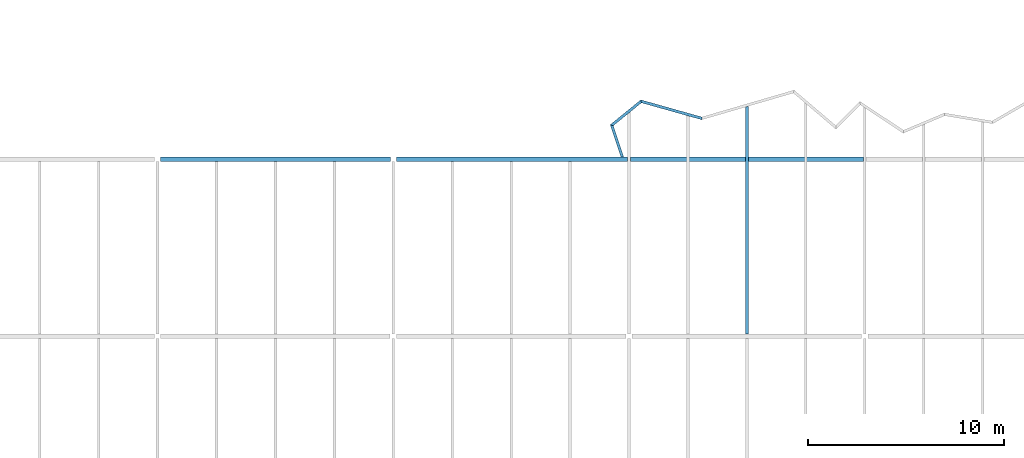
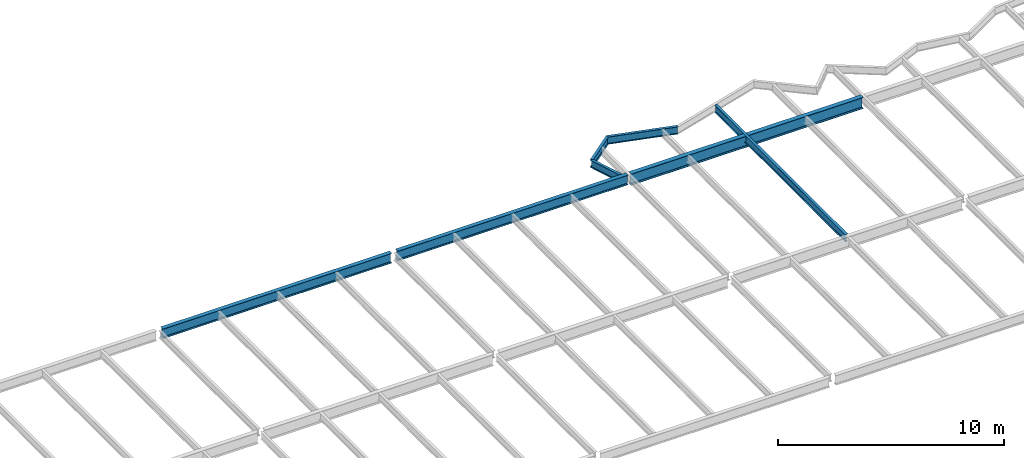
# One storey, part 19 of 23: 7 beams.
"""IFC2X3 building model written with IfcOpenShell, lengths in millimetres."""

from ifc_helpers import new_model, si_unit, origin, place, context, project, spatial, faceted_brep, material, element, save


model = new_model("IFC2X3")

# Units and contexts
context_of_model = context(None, 3, precision=1e-05, world=origin())
ifc_project = project(units=[si_unit("LENGTHUNIT", "METRE", prefix="MILLI")], contexts=[context_of_model])

# Building, storey
building = spatial("IfcBuilding", under=ifc_project, Name="Building", CompositionType="ELEMENT")
storey = spatial("IfcBuildingStorey", under=building, Name="FL5-FRM", CompositionType="ELEMENT")

# Beams
ifc_material_1 = material(Name="A992")
beam_1_placement = place(None, origin())
element("IfcBeam", 1, at=beam_1_placement, inside=storey, material=ifc_material_1, Name="Column589", context=context_of_model, shape_type="Brep", body=[
    faceted_brep([(36153.0, 26895.5, 17345.0), (36153.0, 27104.5, 17345.0), (47847.0, 27104.5, 17345.0), (47847.0, 26895.5, 17345.0), (36153.0, 27104.5, 17358.3), (47847.0, 27104.5, 17358.3), (36153.0, 27017.4, 17358.3), (47847.0, 27017.4, 17358.3), (36153.0, 27014.2, 17358.7), (47847.0, 27014.2, 17358.7), (36153.0, 27011.1, 17360.0), (47847.0, 27011.1, 17360.0), (36153.0, 27008.5, 17362.0), (47847.0, 27008.5, 17362.0), (36153.0, 27006.5, 17364.7), (47847.0, 27006.5, 17364.7), (36153.0, 27005.2, 17367.7), (47847.0, 27005.2, 17367.7), (36153.0, 27004.8, 17371.0), (47847.0, 27004.8, 17371.0), (36153.0, 27004.8, 17847.0), (47847.0, 27004.8, 17847.0), (36153.0, 27005.2, 17850.3), (47847.0, 27005.2, 17850.3), (36153.0, 27006.5, 17853.3), (47847.0, 27006.5, 17853.3), (36153.0, 27008.5, 17856.0), (47847.0, 27008.5, 17856.0), (36153.0, 27011.1, 17858.0), (47847.0, 27011.1, 17858.0), (36153.0, 27014.2, 17859.3), (47847.0, 27014.2, 17859.3), (36153.0, 27017.4, 17859.7), (47847.0, 27017.4, 17859.7), (36153.0, 27104.5, 17859.7), (47847.0, 27104.5, 17859.7), (36153.0, 27104.5, 17873.0), (47847.0, 27104.5, 17873.0), (36153.0, 26895.5, 17873.0), (47847.0, 26895.5, 17873.0), (36153.0, 26895.5, 17859.7), (47847.0, 26895.5, 17859.7), (36153.0, 26982.6, 17859.7), (47847.0, 26982.6, 17859.7), (36153.0, 26985.8, 17859.3), (47847.0, 26985.8, 17859.3), (36153.0, 26988.9, 17858.0), (47847.0, 26988.9, 17858.0), (36153.0, 26991.5, 17856.0), (47847.0, 26991.5, 17856.0), (36153.0, 26993.5, 17853.3), (47847.0, 26993.5, 17853.3), (36153.0, 26994.8, 17850.3), (47847.0, 26994.8, 17850.3), (36153.0, 26995.3, 17847.0), (47847.0, 26995.3, 17847.0), (36153.0, 26995.3, 17371.0), (47847.0, 26995.3, 17371.0), (36153.0, 26994.8, 17367.7), (47847.0, 26994.8, 17367.7), (36153.0, 26993.5, 17364.7), (47847.0, 26993.5, 17364.7), (36153.0, 26991.5, 17362.0), (47847.0, 26991.5, 17362.0), (36153.0, 26988.9, 17360.0), (47847.0, 26988.9, 17360.0), (36153.0, 26985.8, 17358.7), (47847.0, 26985.8, 17358.7), (36153.0, 26982.6, 17358.3), (47847.0, 26982.6, 17358.3), (36153.0, 26895.5, 17358.3), (47847.0, 26895.5, 17358.3)], [[[0, 1, 2, 3]], [[1, 4, 5, 2]], [[4, 6, 7, 5]], [[6, 8, 9, 7]], [[8, 10, 11, 9]], [[10, 12, 13, 11]], [[12, 14, 15, 13]], [[14, 16, 17, 15]], [[16, 18, 19, 17]], [[18, 20, 21, 19]], [[20, 22, 23, 21]], [[22, 24, 25, 23]], [[24, 26, 27, 25]], [[26, 28, 29, 27]], [[28, 30, 31, 29]], [[30, 32, 33, 31]], [[32, 34, 35, 33]], [[34, 36, 37, 35]], [[36, 38, 39, 37]], [[38, 40, 41, 39]], [[40, 42, 43, 41]], [[42, 44, 45, 43]], [[44, 46, 47, 45]], [[46, 48, 49, 47]], [[48, 50, 51, 49]], [[50, 52, 53, 51]], [[52, 54, 55, 53]], [[54, 56, 57, 55]], [[56, 58, 59, 57]], [[58, 60, 61, 59]], [[60, 62, 63, 61]], [[62, 64, 65, 63]], [[64, 66, 67, 65]], [[66, 68, 69, 67]], [[68, 70, 71, 69]], [[70, 0, 3, 71]], [[0, 70, 68, 66, 64, 62, 60, 58, 56, 54, 52, 50, 48, 46, 44, 42, 40, 38, 36, 34, 32, 30, 28, 26, 24, 22, 20, 18, 16, 14, 12, 10, 8, 6, 4, 1]], [[3, 2, 5, 7, 9, 11, 13, 15, 17, 19, 21, 23, 25, 27, 29, 31, 33, 35, 37, 39, 41, 43, 45, 47, 49, 51, 53, 55, 57, 59, 61, 63, 65, 67, 69, 71]]]),
])
ifc_material_2 = material(Name="A992")
beam_2_placement = place(None, origin())
element("IfcBeam", 2, at=beam_2_placement, inside=storey, material=ifc_material_2, Name="Column592", context=context_of_model, shape_type="Brep", body=[
    faceted_brep([(48153.0, 26895.5, 17345.0), (48153.0, 27104.5, 17345.0), (59930.0, 27104.5, 17345.0), (59930.0, 26895.5, 17345.0), (48153.0, 27104.5, 17358.3), (59930.0, 27104.5, 17358.3), (48153.0, 27017.4, 17358.3), (59930.0, 27017.4, 17358.3), (48153.0, 27014.2, 17358.7), (59930.0, 27014.2, 17358.7), (48153.0, 27011.1, 17360.0), (59930.0, 27011.1, 17360.0), (48153.0, 27008.5, 17362.0), (59930.0, 27008.5, 17362.0), (48153.0, 27006.5, 17364.7), (59930.0, 27006.5, 17364.7), (48153.0, 27005.2, 17367.7), (59930.0, 27005.2, 17367.7), (48153.0, 27004.8, 17371.0), (59930.0, 27004.8, 17371.0), (48153.0, 27004.8, 17847.0), (59930.0, 27004.8, 17847.0), (48153.0, 27005.2, 17850.3), (59930.0, 27005.2, 17850.3), (48153.0, 27006.5, 17853.3), (59930.0, 27006.5, 17853.3), (48153.0, 27008.5, 17856.0), (59930.0, 27008.5, 17856.0), (48153.0, 27011.1, 17858.0), (59930.0, 27011.1, 17858.0), (48153.0, 27014.2, 17859.3), (59930.0, 27014.2, 17859.3), (48153.0, 27017.4, 17859.7), (59930.0, 27017.4, 17859.7), (48153.0, 27104.5, 17859.7), (59930.0, 27104.5, 17859.7), (48153.0, 27104.5, 17873.0), (59930.0, 27104.5, 17873.0), (48153.0, 26895.5, 17873.0), (59930.0, 26895.5, 17873.0), (48153.0, 26895.5, 17859.7), (59930.0, 26895.5, 17859.7), (48153.0, 26982.6, 17859.7), (59930.0, 26982.6, 17859.7), (48153.0, 26985.8, 17859.3), (59930.0, 26985.8, 17859.3), (48153.0, 26988.9, 17858.0), (59930.0, 26988.9, 17858.0), (48153.0, 26991.5, 17856.0), (59930.0, 26991.5, 17856.0), (48153.0, 26993.5, 17853.3), (59930.0, 26993.5, 17853.3), (48153.0, 26994.8, 17850.3), (59930.0, 26994.8, 17850.3), (48153.0, 26995.3, 17847.0), (59930.0, 26995.3, 17847.0), (48153.0, 26995.3, 17371.0), (59930.0, 26995.3, 17371.0), (48153.0, 26994.8, 17367.7), (59930.0, 26994.8, 17367.7), (48153.0, 26993.5, 17364.7), (59930.0, 26993.5, 17364.7), (48153.0, 26991.5, 17362.0), (59930.0, 26991.5, 17362.0), (48153.0, 26988.9, 17360.0), (59930.0, 26988.9, 17360.0), (48153.0, 26985.8, 17358.7), (59930.0, 26985.8, 17358.7), (48153.0, 26982.6, 17358.3), (59930.0, 26982.6, 17358.3), (48153.0, 26895.5, 17358.3), (59930.0, 26895.5, 17358.3)], [[[0, 1, 2, 3]], [[1, 4, 5, 2]], [[4, 6, 7, 5]], [[6, 8, 9, 7]], [[8, 10, 11, 9]], [[10, 12, 13, 11]], [[12, 14, 15, 13]], [[14, 16, 17, 15]], [[16, 18, 19, 17]], [[18, 20, 21, 19]], [[20, 22, 23, 21]], [[22, 24, 25, 23]], [[24, 26, 27, 25]], [[26, 28, 29, 27]], [[28, 30, 31, 29]], [[30, 32, 33, 31]], [[32, 34, 35, 33]], [[34, 36, 37, 35]], [[36, 38, 39, 37]], [[38, 40, 41, 39]], [[40, 42, 43, 41]], [[42, 44, 45, 43]], [[44, 46, 47, 45]], [[46, 48, 49, 47]], [[48, 50, 51, 49]], [[50, 52, 53, 51]], [[52, 54, 55, 53]], [[54, 56, 57, 55]], [[56, 58, 59, 57]], [[58, 60, 61, 59]], [[60, 62, 63, 61]], [[62, 64, 65, 63]], [[64, 66, 67, 65]], [[66, 68, 69, 67]], [[68, 70, 71, 69]], [[70, 0, 3, 71]], [[0, 70, 68, 66, 64, 62, 60, 58, 56, 54, 52, 50, 48, 46, 44, 42, 40, 38, 36, 34, 32, 30, 28, 26, 24, 22, 20, 18, 16, 14, 12, 10, 8, 6, 4, 1]], [[3, 2, 5, 7, 9, 11, 13, 15, 17, 19, 21, 23, 25, 27, 29, 31, 33, 35, 37, 39, 41, 43, 45, 47, 49, 51, 53, 55, 57, 59, 61, 63, 65, 67, 69, 71]]]),
])
ifc_material_3 = material(Name="A992")
beam_3_placement = place(None, origin())
element("IfcBeam", 3, at=beam_3_placement, inside=storey, material=ifc_material_3, Name="Column595", context=context_of_model, shape_type="Brep", body=[
    faceted_brep([(60070.0, 26885.5, 17261.0), (60070.0, 27114.5, 17261.0), (71930.0, 27114.5, 17261.0), (71930.0, 26885.5, 17261.0), (60070.0, 27114.5, 17280.6), (71930.0, 27114.5, 17280.6), (60070.0, 27018.6, 17280.6), (71930.0, 27018.6, 17280.6), (60070.0, 27015.4, 17281.0), (71930.0, 27015.4, 17281.0), (60070.0, 27012.3, 17282.3), (71930.0, 27012.3, 17282.3), (60070.0, 27009.7, 17284.3), (71930.0, 27009.7, 17284.3), (60070.0, 27007.7, 17287.0), (71930.0, 27007.7, 17287.0), (60070.0, 27006.4, 17290.0), (71930.0, 27006.4, 17290.0), (60070.0, 27005.9, 17293.3), (71930.0, 27005.9, 17293.3), (60070.0, 27005.9, 17840.7), (71930.0, 27005.9, 17840.7), (60070.0, 27006.4, 17844.0), (71930.0, 27006.4, 17844.0), (60070.0, 27007.7, 17847.0), (71930.0, 27007.7, 17847.0), (60070.0, 27009.7, 17849.7), (71930.0, 27009.7, 17849.7), (60070.0, 27012.3, 17851.7), (71930.0, 27012.3, 17851.7), (60070.0, 27015.4, 17853.0), (71930.0, 27015.4, 17853.0), (60070.0, 27018.6, 17853.4), (71930.0, 27018.6, 17853.4), (60070.0, 27114.5, 17853.4), (71930.0, 27114.5, 17853.4), (60070.0, 27114.5, 17873.0), (71930.0, 27114.5, 17873.0), (60070.0, 26885.5, 17873.0), (71930.0, 26885.5, 17873.0), (60070.0, 26885.5, 17853.4), (71930.0, 26885.5, 17853.4), (60070.0, 26981.4, 17853.4), (71930.0, 26981.4, 17853.4), (60070.0, 26984.6, 17853.0), (71930.0, 26984.6, 17853.0), (60070.0, 26987.7, 17851.7), (71930.0, 26987.7, 17851.7), (60070.0, 26990.3, 17849.7), (71930.0, 26990.3, 17849.7), (60070.0, 26992.3, 17847.0), (71930.0, 26992.3, 17847.0), (60070.0, 26993.6, 17844.0), (71930.0, 26993.6, 17844.0), (60070.0, 26994.1, 17840.7), (71930.0, 26994.1, 17840.7), (60070.0, 26994.1, 17293.3), (71930.0, 26994.1, 17293.3), (60070.0, 26993.6, 17290.0), (71930.0, 26993.6, 17290.0), (60070.0, 26992.3, 17287.0), (71930.0, 26992.3, 17287.0), (60070.0, 26990.3, 17284.3), (71930.0, 26990.3, 17284.3), (60070.0, 26987.7, 17282.3), (71930.0, 26987.7, 17282.3), (60070.0, 26984.6, 17281.0), (71930.0, 26984.6, 17281.0), (60070.0, 26981.4, 17280.6), (71930.0, 26981.4, 17280.6), (60070.0, 26885.5, 17280.6), (71930.0, 26885.5, 17280.6)], [[[0, 1, 2, 3]], [[1, 4, 5, 2]], [[4, 6, 7, 5]], [[6, 8, 9, 7]], [[8, 10, 11, 9]], [[10, 12, 13, 11]], [[12, 14, 15, 13]], [[14, 16, 17, 15]], [[16, 18, 19, 17]], [[18, 20, 21, 19]], [[20, 22, 23, 21]], [[22, 24, 25, 23]], [[24, 26, 27, 25]], [[26, 28, 29, 27]], [[28, 30, 31, 29]], [[30, 32, 33, 31]], [[32, 34, 35, 33]], [[34, 36, 37, 35]], [[36, 38, 39, 37]], [[38, 40, 41, 39]], [[40, 42, 43, 41]], [[42, 44, 45, 43]], [[44, 46, 47, 45]], [[46, 48, 49, 47]], [[48, 50, 51, 49]], [[50, 52, 53, 51]], [[52, 54, 55, 53]], [[54, 56, 57, 55]], [[56, 58, 59, 57]], [[58, 60, 61, 59]], [[60, 62, 63, 61]], [[62, 64, 65, 63]], [[64, 66, 67, 65]], [[66, 68, 69, 67]], [[68, 70, 71, 69]], [[70, 0, 3, 71]], [[0, 70, 68, 66, 64, 62, 60, 58, 56, 54, 52, 50, 48, 46, 44, 42, 40, 38, 36, 34, 32, 30, 28, 26, 24, 22, 20, 18, 16, 14, 12, 10, 8, 6, 4, 1]], [[3, 2, 5, 7, 9, 11, 13, 15, 17, 19, 21, 23, 25, 27, 29, 31, 33, 35, 37, 39, 41, 43, 45, 47, 49, 51, 53, 55, 57, 59, 61, 63, 65, 67, 69, 71]]]),
])
ifc_material_4 = material(Name="A992")
beam_4_placement = place(None, origin())
element("IfcBeam", 4, at=beam_4_placement, inside=storey, material=ifc_material_4, Name="B949", context=context_of_model, shape_type="Brep", body=[
    faceted_brep([(65930.0, 29656.7, 17474.0), (66070.0, 29697.5, 17474.0), (66070.0, 18114.5, 17474.0), (65930.0, 18114.5, 17474.0), (66070.0, 29697.5, 17482.8), (66070.0, 18114.5, 17482.8), (66013.4, 29681.0, 17482.8), (66013.4, 18114.5, 17482.8), (66012.0, 29680.6, 17482.9), (66011.9, 18114.5, 17482.9), (66010.5, 29680.2, 17483.2), (66010.5, 18114.5, 17483.2), (66009.2, 29679.8, 17483.7), (66009.2, 18114.5, 17483.7), (66007.9, 29679.4, 17484.4), (66007.9, 18114.5, 17484.4), (66006.7, 29679.0, 17485.3), (66006.7, 18114.5, 17485.3), (66005.7, 29678.7, 17486.3), (66005.7, 18114.5, 17486.3), (66004.8, 29678.5, 17487.5), (66004.8, 18114.5, 17487.5), (66004.1, 29678.3, 17488.8), (66004.1, 18114.5, 17488.8), (66003.6, 29678.1, 17490.1), (66003.6, 18114.5, 17490.1), (66003.3, 29678.0, 17491.5), (66003.3, 18114.5, 17491.5), (66003.2, 29678.0, 17493.0), (66003.2, 18114.5, 17493.0), (66003.2, 29678.0, 17854.0), (66003.2, 18114.5, 17854.0), (66003.3, 29678.0, 17855.5), (66003.3, 18114.5, 17855.5), (66003.6, 29678.1, 17856.9), (66003.6, 18114.5, 17856.9), (66004.1, 29678.3, 17858.2), (66004.1, 18114.5, 17858.2), (66004.8, 29678.5, 17859.5), (66004.8, 18114.5, 17859.5), (66005.7, 29678.7, 17860.7), (66005.7, 18114.5, 17860.7), (66006.7, 29679.0, 17861.7), (66006.7, 18114.5, 17861.7), (66007.9, 29679.4, 17862.6), (66007.9, 18114.5, 17862.6), (66009.2, 29679.8, 17863.3), (66009.2, 18114.5, 17863.3), (66010.5, 29680.2, 17863.8), (66010.5, 18114.5, 17863.8), (66012.0, 29680.6, 17864.1), (66011.9, 18114.5, 17864.1), (66013.4, 29681.0, 17864.2), (66013.4, 18114.5, 17864.2), (66070.0, 29697.5, 17864.2), (66070.0, 18114.5, 17864.2), (66070.0, 29697.5, 17873.0), (66070.0, 18114.5, 17873.0), (65930.0, 29656.7, 17873.0), (65930.0, 18114.5, 17873.0), (65930.0, 29656.7, 17864.2), (65930.0, 18114.5, 17864.2), (65986.6, 29673.2, 17864.2), (65986.6, 18114.5, 17864.2), (65988.0, 29673.6, 17864.1), (65988.1, 18114.5, 17864.1), (65989.5, 29674.0, 17863.8), (65989.5, 18114.5, 17863.8), (65990.8, 29674.4, 17863.3), (65990.8, 18114.5, 17863.3), (65992.1, 29674.8, 17862.6), (65992.1, 18114.5, 17862.6), (65993.3, 29675.1, 17861.7), (65993.3, 18114.5, 17861.7), (65994.3, 29675.4, 17860.7), (65994.3, 18114.5, 17860.7), (65995.2, 29675.7, 17859.5), (65995.2, 18114.5, 17859.5), (65995.9, 29675.9, 17858.2), (65995.9, 18114.5, 17858.2), (65996.4, 29676.0, 17856.9), (65996.4, 18114.5, 17856.9), (65996.7, 29676.1, 17855.5), (65996.7, 18114.5, 17855.5), (65996.8, 29676.1, 17854.0), (65996.8, 18114.5, 17854.0), (65996.8, 29676.1, 17493.0), (65996.8, 18114.5, 17493.0), (65996.7, 29676.1, 17491.5), (65996.7, 18114.5, 17491.5), (65996.4, 29676.0, 17490.1), (65996.4, 18114.5, 17490.1), (65995.9, 29675.9, 17488.8), (65995.9, 18114.5, 17488.8), (65995.2, 29675.7, 17487.5), (65995.2, 18114.5, 17487.5), (65994.3, 29675.4, 17486.3), (65994.3, 18114.5, 17486.3), (65993.3, 29675.1, 17485.3), (65993.3, 18114.5, 17485.3), (65992.1, 29674.8, 17484.4), (65992.1, 18114.5, 17484.4), (65990.8, 29674.4, 17483.7), (65990.8, 18114.5, 17483.7), (65989.5, 29674.0, 17483.2), (65989.5, 18114.5, 17483.2), (65988.0, 29673.6, 17482.9), (65988.1, 18114.5, 17482.9), (65986.6, 29673.2, 17482.8), (65986.6, 18114.5, 17482.8), (65930.0, 29656.7, 17482.8), (65930.0, 18114.5, 17482.8)], [[[0, 1, 2, 3]], [[1, 4, 5, 2]], [[4, 6, 7, 5]], [[6, 8, 9, 7]], [[8, 10, 11, 9]], [[10, 12, 13, 11]], [[12, 14, 15, 13]], [[14, 16, 17, 15]], [[16, 18, 19, 17]], [[18, 20, 21, 19]], [[20, 22, 23, 21]], [[22, 24, 25, 23]], [[24, 26, 27, 25]], [[26, 28, 29, 27]], [[28, 30, 31, 29]], [[30, 32, 33, 31]], [[32, 34, 35, 33]], [[34, 36, 37, 35]], [[36, 38, 39, 37]], [[38, 40, 41, 39]], [[40, 42, 43, 41]], [[42, 44, 45, 43]], [[44, 46, 47, 45]], [[46, 48, 49, 47]], [[48, 50, 51, 49]], [[50, 52, 53, 51]], [[52, 54, 55, 53]], [[54, 56, 57, 55]], [[56, 58, 59, 57]], [[58, 60, 61, 59]], [[60, 62, 63, 61]], [[62, 64, 65, 63]], [[64, 66, 67, 65]], [[66, 68, 69, 67]], [[68, 70, 71, 69]], [[70, 72, 73, 71]], [[72, 74, 75, 73]], [[74, 76, 77, 75]], [[76, 78, 79, 77]], [[78, 80, 81, 79]], [[80, 82, 83, 81]], [[82, 84, 85, 83]], [[84, 86, 87, 85]], [[86, 88, 89, 87]], [[88, 90, 91, 89]], [[90, 92, 93, 91]], [[92, 94, 95, 93]], [[94, 96, 97, 95]], [[96, 98, 99, 97]], [[98, 100, 101, 99]], [[100, 102, 103, 101]], [[102, 104, 105, 103]], [[104, 106, 107, 105]], [[106, 108, 109, 107]], [[108, 110, 111, 109]], [[110, 0, 3, 111]], [[0, 110, 108, 106, 104, 102, 100, 98, 96, 94, 92, 90, 88, 86, 84, 82, 80, 78, 76, 74, 72, 70, 68, 66, 64, 62, 60, 58, 56, 54, 52, 50, 48, 46, 44, 42, 40, 38, 36, 34, 32, 30, 28, 26, 24, 22, 20, 18, 16, 14, 12, 10, 8, 6, 4, 1]], [[3, 2, 5, 7, 9, 11, 13, 15, 17, 19, 21, 23, 25, 27, 29, 31, 33, 35, 37, 39, 41, 43, 45, 47, 49, 51, 53, 55, 57, 59, 61, 63, 65, 67, 69, 71, 73, 75, 77, 79, 81, 83, 85, 87, 89, 91, 93, 95, 97, 99, 101, 103, 105, 107, 109, 111]]]),
])
ifc_material_5 = material(Name="A992")
beam_5_placement = place(None, origin())
element("IfcBeam", 5, at=beam_5_placement, inside=storey, material=ifc_material_5, Name="B952", context=context_of_model, shape_type="Brep", body=[
    faceted_brep([(60630.3, 29871.2, 17474.0), (60598.3, 30025.7, 17474.0), (63702.2, 29152.7, 17474.0), (63702.9, 29007.1, 17474.0), (60598.3, 30025.7, 17482.8), (63702.2, 29152.7, 17482.8), (60611.3, 29963.2, 17482.8), (63702.4, 29093.8, 17482.8), (60611.6, 29961.6, 17482.9), (63702.4, 29092.3, 17482.9), (60611.9, 29960.1, 17483.2), (63702.5, 29090.8, 17483.2), (60612.2, 29958.6, 17483.7), (63702.5, 29089.4, 17483.7), (60612.5, 29957.2, 17484.4), (63702.5, 29088.1, 17484.4), (60612.8, 29955.9, 17485.3), (63702.5, 29086.9, 17485.3), (60613.0, 29954.7, 17486.3), (63702.5, 29085.8, 17486.3), (60613.2, 29953.8, 17487.5), (63702.5, 29084.9, 17487.5), (60613.4, 29953.0, 17488.8), (63702.5, 29084.2, 17488.8), (60613.5, 29952.4, 17490.1), (63702.5, 29083.7, 17490.1), (60613.6, 29952.1, 17491.5), (63702.5, 29083.3, 17491.5), (60613.6, 29952.0, 17493.0), (63702.5, 29083.2, 17493.0), (60613.6, 29952.0, 17854.0), (63702.5, 29083.2, 17854.0), (60613.6, 29952.1, 17855.5), (63702.5, 29083.3, 17855.5), (60613.5, 29952.4, 17856.9), (63702.5, 29083.7, 17856.9), (60613.4, 29953.0, 17858.2), (63702.5, 29084.2, 17858.2), (60613.2, 29953.8, 17859.5), (63702.5, 29084.9, 17859.5), (60613.0, 29954.7, 17860.7), (63702.5, 29085.8, 17860.7), (60612.8, 29955.9, 17861.7), (63702.5, 29086.9, 17861.7), (60612.5, 29957.2, 17862.6), (63702.5, 29088.1, 17862.6), (60612.2, 29958.6, 17863.3), (63702.5, 29089.4, 17863.3), (60611.9, 29960.1, 17863.8), (63702.5, 29090.8, 17863.8), (60611.6, 29961.6, 17864.1), (63702.4, 29092.3, 17864.1), (60611.3, 29963.2, 17864.2), (63702.4, 29093.8, 17864.2), (60598.3, 30025.7, 17864.2), (63702.2, 29152.7, 17864.2), (60598.3, 30025.7, 17873.0), (63702.2, 29152.7, 17873.0), (60630.3, 29871.2, 17873.0), (63702.9, 29007.1, 17873.0), (60630.3, 29871.2, 17864.2), (63702.9, 29007.1, 17864.2), (60617.4, 29933.7, 17864.2), (63702.6, 29066.0, 17864.2), (60617.1, 29935.3, 17864.1), (63702.6, 29067.5, 17864.1), (60616.7, 29936.8, 17863.8), (63702.6, 29068.9, 17863.8), (60616.4, 29938.3, 17863.3), (63702.5, 29070.4, 17863.3), (60616.1, 29939.7, 17862.6), (63702.5, 29071.7, 17862.6), (60615.9, 29941.0, 17861.7), (63702.5, 29072.9, 17861.7), (60615.6, 29942.2, 17860.7), (63702.5, 29074.0, 17860.7), (60615.4, 29943.1, 17859.5), (63702.5, 29074.9, 17859.5), (60615.3, 29943.9, 17858.2), (63702.5, 29075.6, 17858.2), (60615.2, 29944.4, 17856.9), (63702.5, 29076.1, 17856.9), (60615.1, 29944.8, 17855.5), (63702.5, 29076.5, 17855.5), (60615.1, 29944.9, 17854.0), (63702.5, 29076.6, 17854.0), (60615.1, 29944.9, 17493.0), (63702.5, 29076.6, 17493.0), (60615.1, 29944.8, 17491.5), (63702.5, 29076.5, 17491.5), (60615.2, 29944.4, 17490.1), (63702.5, 29076.1, 17490.1), (60615.3, 29943.9, 17488.8), (63702.5, 29075.6, 17488.8), (60615.4, 29943.1, 17487.5), (63702.5, 29074.9, 17487.5), (60615.6, 29942.2, 17486.3), (63702.5, 29074.0, 17486.3), (60615.9, 29941.0, 17485.3), (63702.5, 29072.9, 17485.3), (60616.1, 29939.7, 17484.4), (63702.5, 29071.7, 17484.4), (60616.4, 29938.3, 17483.7), (63702.5, 29070.4, 17483.7), (60616.7, 29936.8, 17483.2), (63702.6, 29068.9, 17483.2), (60617.1, 29935.3, 17482.9), (63702.6, 29067.5, 17482.9), (60617.4, 29933.7, 17482.8), (63702.6, 29066.0, 17482.8), (60630.3, 29871.2, 17482.8), (63702.9, 29007.1, 17482.8)], [[[0, 1, 2, 3]], [[1, 4, 5, 2]], [[4, 6, 7, 5]], [[6, 8, 9, 7]], [[8, 10, 11, 9]], [[10, 12, 13, 11]], [[12, 14, 15, 13]], [[14, 16, 17, 15]], [[16, 18, 19, 17]], [[18, 20, 21, 19]], [[20, 22, 23, 21]], [[22, 24, 25, 23]], [[24, 26, 27, 25]], [[26, 28, 29, 27]], [[28, 30, 31, 29]], [[30, 32, 33, 31]], [[32, 34, 35, 33]], [[34, 36, 37, 35]], [[36, 38, 39, 37]], [[38, 40, 41, 39]], [[40, 42, 43, 41]], [[42, 44, 45, 43]], [[44, 46, 47, 45]], [[46, 48, 49, 47]], [[48, 50, 51, 49]], [[50, 52, 53, 51]], [[52, 54, 55, 53]], [[54, 56, 57, 55]], [[56, 58, 59, 57]], [[58, 60, 61, 59]], [[60, 62, 63, 61]], [[62, 64, 65, 63]], [[64, 66, 67, 65]], [[66, 68, 69, 67]], [[68, 70, 71, 69]], [[70, 72, 73, 71]], [[72, 74, 75, 73]], [[74, 76, 77, 75]], [[76, 78, 79, 77]], [[78, 80, 81, 79]], [[80, 82, 83, 81]], [[82, 84, 85, 83]], [[84, 86, 87, 85]], [[86, 88, 89, 87]], [[88, 90, 91, 89]], [[90, 92, 93, 91]], [[92, 94, 95, 93]], [[94, 96, 97, 95]], [[96, 98, 99, 97]], [[98, 100, 101, 99]], [[100, 102, 103, 101]], [[102, 104, 105, 103]], [[104, 106, 107, 105]], [[106, 108, 109, 107]], [[108, 110, 111, 109]], [[110, 0, 3, 111]], [[0, 110, 108, 106, 104, 102, 100, 98, 96, 94, 92, 90, 88, 86, 84, 82, 80, 78, 76, 74, 72, 70, 68, 66, 64, 62, 60, 58, 56, 54, 52, 50, 48, 46, 44, 42, 40, 38, 36, 34, 32, 30, 28, 26, 24, 22, 20, 18, 16, 14, 12, 10, 8, 6, 4, 1]], [[3, 2, 5, 7, 9, 11, 13, 15, 17, 19, 21, 23, 25, 27, 29, 31, 33, 35, 37, 39, 41, 43, 45, 47, 49, 51, 53, 55, 57, 59, 61, 63, 65, 67, 69, 71, 73, 75, 77, 79, 81, 83, 85, 87, 89, 91, 93, 95, 97, 99, 101, 103, 105, 107, 109, 111]]]),
])
ifc_material_6 = material(Name="A992")
beam_6_placement = place(None, origin())
element("IfcBeam", 6, at=beam_6_placement, inside=storey, material=ifc_material_6, Name="B953", context=context_of_model, shape_type="Brep", body=[
    faceted_brep([(59198.7, 28706.5, 17474.0), (59035.3, 28754.0, 17474.0), (60598.3, 30025.7, 17474.0), (60630.3, 29871.2, 17474.0), (59035.3, 28754.0, 17482.8), (60598.3, 30025.7, 17482.8), (59101.3, 28734.8, 17482.8), (60611.3, 29963.2, 17482.8), (59103.2, 28734.3, 17482.9), (60611.6, 29961.5, 17482.9), (59105.0, 28733.7, 17483.3), (60612.0, 29959.8, 17483.3), (59106.7, 28733.2, 17483.9), (60612.3, 29958.1, 17483.9), (59108.3, 28732.8, 17484.7), (60612.6, 29956.6, 17484.7), (59109.7, 28732.3, 17485.8), (60612.9, 29955.3, 17485.8), (59110.9, 28732.0, 17487.0), (60613.2, 29954.1, 17487.0), (59111.9, 28731.7, 17488.3), (60613.3, 29953.2, 17488.4), (59112.6, 28731.5, 17489.8), (60613.5, 29952.5, 17489.8), (59113.1, 28731.4, 17491.4), (60613.6, 29952.1, 17491.4), (59113.2, 28731.3, 17493.0), (60613.6, 29952.0, 17493.0), (59113.2, 28731.3, 17854.0), (60613.6, 29952.0, 17854.0), (59113.1, 28731.4, 17855.6), (60613.6, 29952.1, 17855.6), (59112.6, 28731.5, 17857.2), (60613.5, 29952.5, 17857.2), (59111.9, 28731.7, 17858.7), (60613.3, 29953.2, 17858.6), (59110.9, 28732.0, 17860.0), (60613.2, 29954.1, 17860.0), (59109.7, 28732.3, 17861.2), (60612.9, 29955.3, 17861.2), (59108.3, 28732.8, 17862.3), (60612.6, 29956.6, 17862.3), (59106.7, 28733.2, 17863.1), (60612.3, 29958.1, 17863.1), (59105.0, 28733.7, 17863.7), (60612.0, 29959.8, 17863.7), (59103.2, 28734.3, 17864.1), (60611.6, 29961.5, 17864.1), (59101.3, 28734.8, 17864.2), (60611.3, 29963.2, 17864.2), (59035.3, 28754.0, 17864.2), (60598.3, 30025.7, 17864.2), (59035.3, 28754.0, 17873.0), (60598.3, 30025.7, 17873.0), (59198.7, 28706.5, 17873.0), (60630.3, 29871.2, 17873.0), (59198.7, 28706.5, 17864.2), (60630.3, 29871.2, 17864.2), (59132.6, 28725.7, 17864.2), (60617.4, 29933.7, 17864.2), (59130.8, 28726.2, 17864.1), (60617.0, 29935.4, 17864.1), (59128.9, 28726.8, 17863.7), (60616.7, 29937.1, 17863.7), (59127.2, 28727.3, 17863.1), (60616.3, 29938.8, 17863.1), (59125.6, 28727.7, 17862.3), (60616.0, 29940.3, 17862.3), (59124.2, 28728.1, 17861.2), (60615.7, 29941.6, 17861.2), (59123.0, 28728.5, 17860.0), (60615.5, 29942.8, 17860.0), (59122.0, 28728.8, 17858.7), (60615.3, 29943.7, 17858.6), (59121.3, 28729.0, 17857.2), (60615.2, 29944.4, 17857.2), (59120.9, 28729.1, 17855.6), (60615.1, 29944.8, 17855.6), (59120.7, 28729.2, 17854.0), (60615.1, 29944.9, 17854.0), (59120.7, 28729.2, 17493.0), (60615.1, 29944.9, 17493.0), (59120.9, 28729.1, 17491.4), (60615.1, 29944.8, 17491.4), (59121.3, 28729.0, 17489.8), (60615.2, 29944.4, 17489.8), (59122.0, 28728.8, 17488.3), (60615.3, 29943.7, 17488.4), (59123.0, 28728.5, 17487.0), (60615.5, 29942.8, 17487.0), (59124.2, 28728.1, 17485.8), (60615.7, 29941.6, 17485.8), (59125.6, 28727.7, 17484.7), (60616.0, 29940.3, 17484.7), (59127.2, 28727.3, 17483.9), (60616.3, 29938.8, 17483.9), (59128.9, 28726.8, 17483.3), (60616.7, 29937.1, 17483.3), (59130.8, 28726.2, 17482.9), (60617.0, 29935.4, 17482.9), (59132.6, 28725.7, 17482.8), (60617.4, 29933.7, 17482.8), (59198.7, 28706.5, 17482.8), (60630.3, 29871.2, 17482.8)], [[[0, 1, 2, 3]], [[1, 4, 5, 2]], [[4, 6, 7, 5]], [[6, 8, 9, 7]], [[8, 10, 11, 9]], [[10, 12, 13, 11]], [[12, 14, 15, 13]], [[14, 16, 17, 15]], [[16, 18, 19, 17]], [[18, 20, 21, 19]], [[20, 22, 23, 21]], [[22, 24, 25, 23]], [[24, 26, 27, 25]], [[26, 28, 29, 27]], [[28, 30, 31, 29]], [[30, 32, 33, 31]], [[32, 34, 35, 33]], [[34, 36, 37, 35]], [[36, 38, 39, 37]], [[38, 40, 41, 39]], [[40, 42, 43, 41]], [[42, 44, 45, 43]], [[44, 46, 47, 45]], [[46, 48, 49, 47]], [[48, 50, 51, 49]], [[50, 52, 53, 51]], [[52, 54, 55, 53]], [[54, 56, 57, 55]], [[56, 58, 59, 57]], [[58, 60, 61, 59]], [[60, 62, 63, 61]], [[62, 64, 65, 63]], [[64, 66, 67, 65]], [[66, 68, 69, 67]], [[68, 70, 71, 69]], [[70, 72, 73, 71]], [[72, 74, 75, 73]], [[74, 76, 77, 75]], [[76, 78, 79, 77]], [[78, 80, 81, 79]], [[80, 82, 83, 81]], [[82, 84, 85, 83]], [[84, 86, 87, 85]], [[86, 88, 89, 87]], [[88, 90, 91, 89]], [[90, 92, 93, 91]], [[92, 94, 95, 93]], [[94, 96, 97, 95]], [[96, 98, 99, 97]], [[98, 100, 101, 99]], [[100, 102, 103, 101]], [[102, 0, 3, 103]], [[0, 102, 100, 98, 96, 94, 92, 90, 88, 86, 84, 82, 80, 78, 76, 74, 72, 70, 68, 66, 64, 62, 60, 58, 56, 54, 52, 50, 48, 46, 44, 42, 40, 38, 36, 34, 32, 30, 28, 26, 24, 22, 20, 18, 16, 14, 12, 10, 8, 6, 4, 1]], [[3, 2, 5, 7, 9, 11, 13, 15, 17, 19, 21, 23, 25, 27, 29, 31, 33, 35, 37, 39, 41, 43, 45, 47, 49, 51, 53, 55, 57, 59, 61, 63, 65, 67, 69, 71, 73, 75, 77, 79, 81, 83, 85, 87, 89, 91, 93, 95, 97, 99, 101, 103]]]),
])
ifc_material_7 = material(Name="A992")
beam_7_placement = place(None, origin())
element("IfcBeam", 7, at=beam_7_placement, inside=storey, material=ifc_material_7, Name="B954", context=context_of_model, shape_type="Brep", body=[
    faceted_brep([(59035.3, 28754.0, 17474.0), (59198.7, 28706.5, 17474.0), (59732.7, 27104.5, 17474.0), (59585.1, 27104.5, 17474.0), (59198.7, 28706.5, 17482.8), (59732.7, 27104.5, 17482.8), (59132.6, 28725.7, 17482.8), (59673.0, 27104.5, 17482.8), (59130.9, 28726.2, 17482.9), (59671.5, 27104.5, 17482.9), (59129.3, 28726.7, 17483.2), (59670.0, 27104.5, 17483.2), (59127.7, 28727.1, 17483.7), (59668.5, 27104.5, 17483.7), (59126.2, 28727.6, 17484.4), (59667.2, 27104.5, 17484.4), (59124.8, 28728.0, 17485.3), (59666.0, 27104.5, 17485.3), (59123.6, 28728.3, 17486.3), (59664.9, 27104.5, 17486.3), (59122.6, 28728.6, 17487.5), (59664.0, 27104.5, 17487.5), (59121.8, 28728.8, 17488.8), (59663.2, 27104.5, 17488.8), (59121.2, 28729.0, 17490.1), (59662.7, 27104.5, 17490.1), (59120.8, 28729.1, 17491.5), (59662.4, 27104.5, 17491.5), (59120.7, 28729.2, 17493.0), (59662.3, 27104.5, 17493.0), (59120.7, 28729.2, 17854.0), (59662.3, 27104.5, 17854.0), (59120.8, 28729.1, 17855.5), (59662.4, 27104.5, 17855.5), (59121.2, 28729.0, 17856.9), (59662.7, 27104.5, 17856.9), (59121.8, 28728.8, 17858.2), (59663.2, 27104.5, 17858.2), (59122.6, 28728.6, 17859.5), (59664.0, 27104.5, 17859.5), (59123.6, 28728.3, 17860.7), (59664.9, 27104.5, 17860.7), (59124.8, 28728.0, 17861.7), (59666.0, 27104.5, 17861.7), (59126.2, 28727.6, 17862.6), (59667.2, 27104.5, 17862.6), (59127.7, 28727.1, 17863.3), (59668.5, 27104.5, 17863.3), (59129.3, 28726.7, 17863.8), (59670.0, 27104.5, 17863.8), (59130.9, 28726.2, 17864.1), (59671.5, 27104.5, 17864.1), (59132.6, 28725.7, 17864.2), (59673.0, 27104.5, 17864.2), (59198.7, 28706.5, 17864.2), (59732.7, 27104.5, 17864.2), (59198.7, 28706.5, 17873.0), (59732.7, 27104.5, 17873.0), (59035.3, 28754.0, 17873.0), (59585.1, 27104.5, 17873.0), (59035.3, 28754.0, 17864.2), (59585.1, 27104.5, 17864.2), (59101.3, 28734.8, 17864.2), (59644.8, 27104.5, 17864.2), (59103.0, 28734.3, 17864.1), (59646.3, 27104.5, 17864.1), (59104.7, 28733.8, 17863.8), (59647.8, 27104.5, 17863.8), (59106.3, 28733.4, 17863.3), (59649.2, 27104.5, 17863.3), (59107.7, 28732.9, 17862.6), (59650.6, 27104.5, 17862.6), (59109.1, 28732.5, 17861.7), (59651.8, 27104.5, 17861.7), (59110.3, 28732.2, 17860.7), (59652.9, 27104.5, 17860.7), (59111.3, 28731.9, 17859.5), (59653.8, 27104.5, 17859.5), (59112.1, 28731.6, 17858.2), (59654.5, 27104.5, 17858.2), (59112.7, 28731.5, 17856.9), (59655.1, 27104.5, 17856.9), (59113.1, 28731.4, 17855.5), (59655.4, 27104.5, 17855.5), (59113.2, 28731.3, 17854.0), (59655.5, 27104.5, 17854.0), (59113.2, 28731.3, 17493.0), (59655.5, 27104.5, 17493.0), (59113.1, 28731.4, 17491.5), (59655.4, 27104.5, 17491.5), (59112.7, 28731.5, 17490.1), (59655.1, 27104.5, 17490.1), (59112.1, 28731.6, 17488.8), (59654.5, 27104.5, 17488.8), (59111.3, 28731.9, 17487.5), (59653.8, 27104.5, 17487.5), (59110.3, 28732.2, 17486.3), (59652.9, 27104.5, 17486.3), (59109.1, 28732.5, 17485.3), (59651.8, 27104.5, 17485.3), (59107.7, 28732.9, 17484.4), (59650.6, 27104.5, 17484.4), (59106.3, 28733.4, 17483.7), (59649.2, 27104.5, 17483.7), (59104.7, 28733.8, 17483.2), (59647.8, 27104.5, 17483.2), (59103.0, 28734.3, 17482.9), (59646.3, 27104.5, 17482.9), (59101.3, 28734.8, 17482.8), (59644.8, 27104.5, 17482.8), (59035.3, 28754.0, 17482.8), (59585.1, 27104.5, 17482.8)], [[[0, 1, 2, 3]], [[1, 4, 5, 2]], [[4, 6, 7, 5]], [[6, 8, 9, 7]], [[8, 10, 11, 9]], [[10, 12, 13, 11]], [[12, 14, 15, 13]], [[14, 16, 17, 15]], [[16, 18, 19, 17]], [[18, 20, 21, 19]], [[20, 22, 23, 21]], [[22, 24, 25, 23]], [[24, 26, 27, 25]], [[26, 28, 29, 27]], [[28, 30, 31, 29]], [[30, 32, 33, 31]], [[32, 34, 35, 33]], [[34, 36, 37, 35]], [[36, 38, 39, 37]], [[38, 40, 41, 39]], [[40, 42, 43, 41]], [[42, 44, 45, 43]], [[44, 46, 47, 45]], [[46, 48, 49, 47]], [[48, 50, 51, 49]], [[50, 52, 53, 51]], [[52, 54, 55, 53]], [[54, 56, 57, 55]], [[56, 58, 59, 57]], [[58, 60, 61, 59]], [[60, 62, 63, 61]], [[62, 64, 65, 63]], [[64, 66, 67, 65]], [[66, 68, 69, 67]], [[68, 70, 71, 69]], [[70, 72, 73, 71]], [[72, 74, 75, 73]], [[74, 76, 77, 75]], [[76, 78, 79, 77]], [[78, 80, 81, 79]], [[80, 82, 83, 81]], [[82, 84, 85, 83]], [[84, 86, 87, 85]], [[86, 88, 89, 87]], [[88, 90, 91, 89]], [[90, 92, 93, 91]], [[92, 94, 95, 93]], [[94, 96, 97, 95]], [[96, 98, 99, 97]], [[98, 100, 101, 99]], [[100, 102, 103, 101]], [[102, 104, 105, 103]], [[104, 106, 107, 105]], [[106, 108, 109, 107]], [[108, 110, 111, 109]], [[110, 0, 3, 111]], [[0, 110, 108, 106, 104, 102, 100, 98, 96, 94, 92, 90, 88, 86, 84, 82, 80, 78, 76, 74, 72, 70, 68, 66, 64, 62, 60, 58, 56, 54, 52, 50, 48, 46, 44, 42, 40, 38, 36, 34, 32, 30, 28, 26, 24, 22, 20, 18, 16, 14, 12, 10, 8, 6, 4, 1]], [[3, 2, 5, 7, 9, 11, 13, 15, 17, 19, 21, 23, 25, 27, 29, 31, 33, 35, 37, 39, 41, 43, 45, 47, 49, 51, 53, 55, 57, 59, 61, 63, 65, 67, 69, 71, 73, 75, 77, 79, 81, 83, 85, 87, 89, 91, 93, 95, 97, 99, 101, 103, 105, 107, 109, 111]]]),
])

save(model, "model.ifc")
